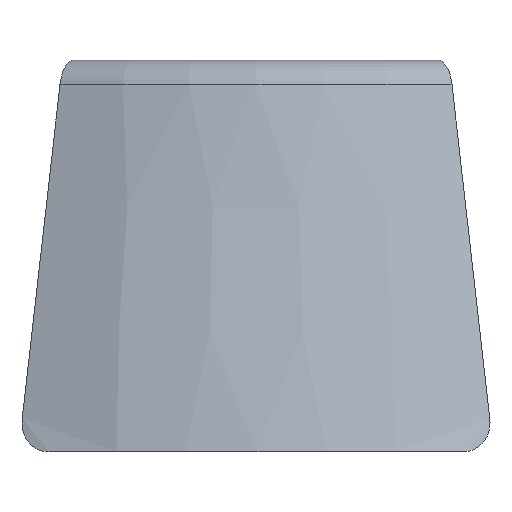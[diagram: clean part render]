
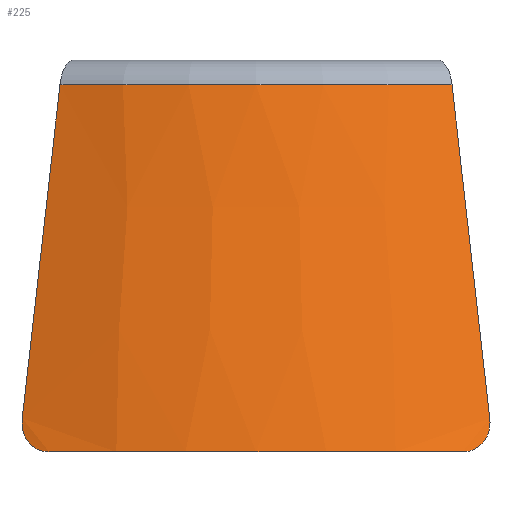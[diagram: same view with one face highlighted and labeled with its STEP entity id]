
A CAD part, front view. The second image highlights one B-rep face of the part: STEP entity #225.
In plain terms, the highlighted conical face has half-angle 15 degrees and reference radius 51.857 mm.
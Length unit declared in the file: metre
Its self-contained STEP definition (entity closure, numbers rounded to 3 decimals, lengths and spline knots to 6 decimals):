
#13=B_SPLINE_CURVE_WITH_KNOTS('',3,(#367,#368,#369,#370,#371),
 .UNSPECIFIED.,.F.,.F.,(4,1,4),(0.,0.003025,0.00605),
 .UNSPECIFIED.);
#14=B_SPLINE_CURVE_WITH_KNOTS('',3,(#375,#376,#377,#378,#379),
 .UNSPECIFIED.,.F.,.F.,(4,1,4),(0.,0.003025,
0.00605),.UNSPECIFIED.);
#17=CONICAL_SURFACE('',#256,0.051857,0.262);
#28=LINE('',#364,#42);
#29=LINE('',#381,#43);
#42=VECTOR('',#297,1.);
#43=VECTOR('',#300,1.);
#62=ORIENTED_EDGE('',*,*,#123,.T.);
#63=ORIENTED_EDGE('',*,*,#124,.T.);
#64=ORIENTED_EDGE('',*,*,#125,.F.);
#65=ORIENTED_EDGE('',*,*,#126,.T.);
#66=ORIENTED_EDGE('',*,*,#127,.F.);
#67=ORIENTED_EDGE('',*,*,#128,.T.);
#123=EDGE_CURVE('',#153,#154,#28,.T.);
#124=EDGE_CURVE('',#154,#155,#13,.T.);
#125=EDGE_CURVE('',#156,#155,#172,.T.);
#126=EDGE_CURVE('',#156,#157,#14,.T.);
#127=EDGE_CURVE('',#158,#157,#29,.T.);
#128=EDGE_CURVE('',#158,#153,#173,.F.);
#153=VERTEX_POINT('',#365);
#154=VERTEX_POINT('',#366);
#155=VERTEX_POINT('',#372);
#156=VERTEX_POINT('',#374);
#157=VERTEX_POINT('',#380);
#158=VERTEX_POINT('',#382);
#172=CIRCLE('',#257,0.063767);
#173=CIRCLE('',#258,0.052614);
#184=EDGE_LOOP('',(#62,#63,#64,#65,#66,#67));
#203=FACE_BOUND('',#184,.T.);
#225=ADVANCED_FACE('',(#203),#17,.T.);
#256=AXIS2_PLACEMENT_3D('',#363,#295,#296);
#257=AXIS2_PLACEMENT_3D('',#373,#298,#299);
#258=AXIS2_PLACEMENT_3D('',#383,#301,#302);
#295=DIRECTION('',(0.,0.,-1.));
#296=DIRECTION('',(-1.,0.,0.));
#297=DIRECTION('',(-0.109,-0.235,-0.966));
#298=DIRECTION('',(0.,0.,-1.));
#299=DIRECTION('',(-1.,0.,0.));
#300=DIRECTION('',(0.109,-0.235,-0.966));
#301=DIRECTION('',(0.,0.,1.));
#302=DIRECTION('',(1.,0.,0.));
#363=CARTESIAN_POINT('',(0.,0.,-0.052994));
#364=CARTESIAN_POINT('',(-0.024433,-0.052396,-0.075219));
#365=CARTESIAN_POINT('',(-0.022236,-0.047684,-0.055818));
#366=CARTESIAN_POINT('',(-0.026518,-0.056868,-0.093634));
#367=CARTESIAN_POINT('',(-0.026518,-0.056868,-0.093634));
#368=CARTESIAN_POINT('',(-0.02663,-0.057108,-0.094622));
#369=CARTESIAN_POINT('',(-0.026141,-0.05792,-0.096572));
#370=CARTESIAN_POINT('',(-0.0244,-0.058923,-0.097444));
#371=CARTESIAN_POINT('',(-0.023448,-0.0593,-0.097444));
#372=CARTESIAN_POINT('',(-0.023448,-0.0593,-0.097444));
#373=CARTESIAN_POINT('',(0.,0.,-0.097444));
#374=CARTESIAN_POINT('',(0.023448,-0.0593,-0.097444));
#375=CARTESIAN_POINT('',(0.023448,-0.0593,-0.097444));
#376=CARTESIAN_POINT('',(0.024399,-0.058924,-0.097444));
#377=CARTESIAN_POINT('',(0.026138,-0.057923,-0.096576));
#378=CARTESIAN_POINT('',(0.02663,-0.057107,-0.094621));
#379=CARTESIAN_POINT('',(0.026518,-0.056868,-0.093634));
#380=CARTESIAN_POINT('',(0.026518,-0.056868,-0.093634));
#381=CARTESIAN_POINT('',(0.024433,-0.052396,-0.075219));
#382=CARTESIAN_POINT('',(0.022236,-0.047684,-0.055818));
#383=CARTESIAN_POINT('',(0.,0.,-0.055818));
